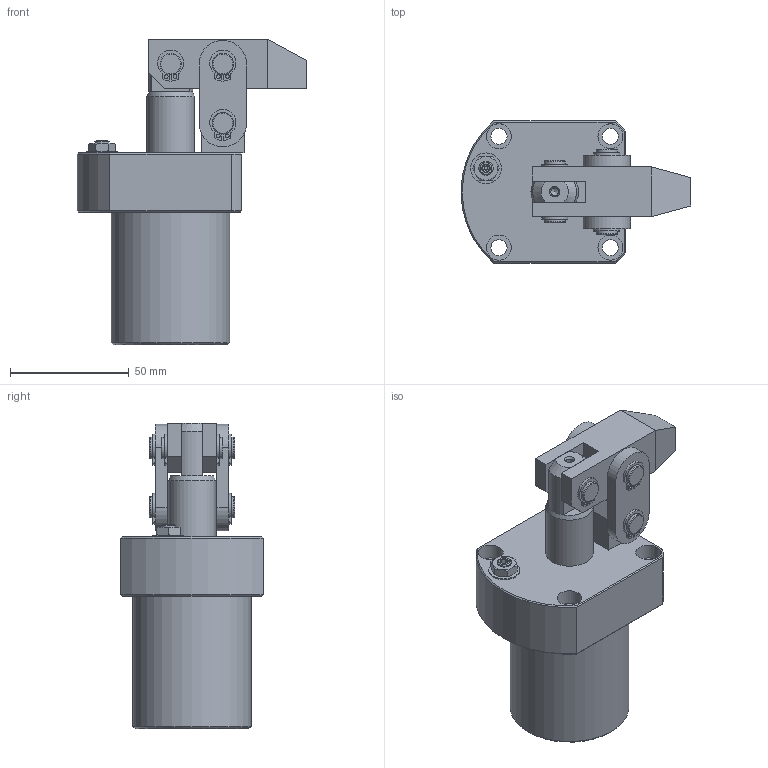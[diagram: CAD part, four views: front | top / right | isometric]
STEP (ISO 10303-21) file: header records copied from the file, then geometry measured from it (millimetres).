
FILE_DESCRIPTION(/* description */ ('Unknown'),/* implementation_level */ '2;1');
FILE_NAME(/* name */ 'HLB-FCM32-A',/* time_stamp */ '2025-05-31T01:01:31+08:00',/* author */ ('Unknown'),/* organization */ ('Unknown'),/* preprocessor_version */ 'ST-DEVELOPER v16.7',/* originating_system */ 'DEX',/* authorisation */ $);
FILE_SCHEMA (('AUTOMOTIVE_DESIGN {1 0 10303 214 3 1 1}'));
Length unit declared in the file: millimetre
Products named in the file (8): HLB-FCM32-A; HLB-FCM32-CYLINDER; HLB-32-墊; HLB-32-A; HLB-3202-AXLE CENTRE; HLB-32-PINµu-; HLB-32-PINªø; HLB-32-C扣2
Assembly tree (14 placements, depth 2):
  HLB-FCM32-A
    HLB-FCM32-CYLINDER
    HLB-32-墊  x2
    HLB-32-A
    HLB-3202-AXLE CENTRE
    HLB-32-PINµu-
    HLB-32-PINªø  x2
    HLB-32-C扣2  x6
Bounding box: 97 x 60 x 129.02 mm (x, y, z)
Volume: 233075.6 mm3; surface area: 56507.9 mm2
Topology: 14 solids, 14 shells, 287 faces, 671 edges, 443 vertices
Faces by surface type: plane 127, cylinder 115, cone 25, bspline 12, torus 8
Full cylindrical faces by diameter (mm): 1.575 x12, 2.5 x2, 3.2 x1, 4.1 x2, 6 x1, 6.8 x4, 8.5 x10, 9 x14, 10 x2, 10.5 x4, 13 x1, 20 x2, 32 x2, 50 x1
Entity records: 5188 total; most frequent: CARTESIAN_POINT 1139, DIRECTION 791, ORIENTED_EDGE 674, EDGE_CURVE 337, AXIS2_PLACEMENT_3D 333, FACE_BOUND 298, EDGE_LOOP 297, VERTEX_POINT 251
